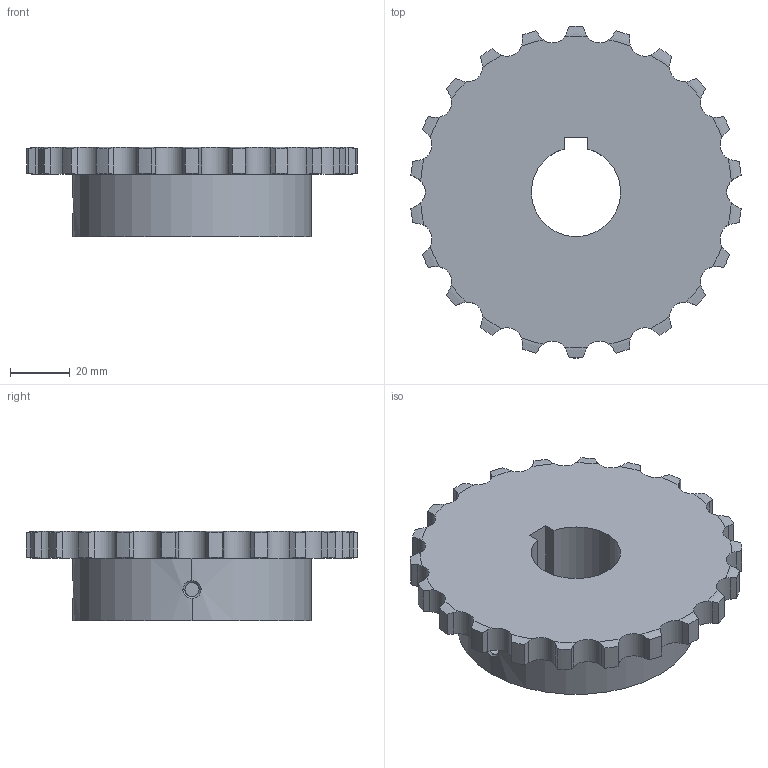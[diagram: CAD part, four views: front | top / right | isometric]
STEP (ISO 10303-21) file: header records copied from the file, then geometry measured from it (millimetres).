
FILE_DESCRIPTION((''),'2;1');
FILE_NAME('510-301-3022_PRT','2021-02-13T',('Brieden'),('Brieden'),'PRO/ENGINEER BY PARAMETRIC TECHNOLOGY CORPORATION, 2010160','PRO/ENGINEER BY PARAMETRIC TECHNOLOGY CORPORATION, 2010160','');
FILE_SCHEMA(('AUTOMOTIVE_DESIGN { 1 0 10303 214 1 1 1 1 }'));
Length unit declared in the file: millimetre
Products named in the file (1): 510-301-3022_PRT
Bounding box: 110.98 x 111.54 x 30 mm (x, y, z)
Volume: 163102.5 mm3; surface area: 28968.9 mm2
Topology: 1 solids, 1 shells, 153 faces, 441 edges, 292 vertices
Faces by surface type: cylinder 95, torus 44, plane 8, bspline 6
Entity records: 7440 total; most frequent: CARTESIAN_POINT 2277, ORIENTED_EDGE 882, DIRECTION 689, PRESENTATION_STYLE_ASSIGNMENT 442, STYLED_ITEM 442, CURVE_STYLE 441, EDGE_CURVE 441, VERTEX_POINT 292
